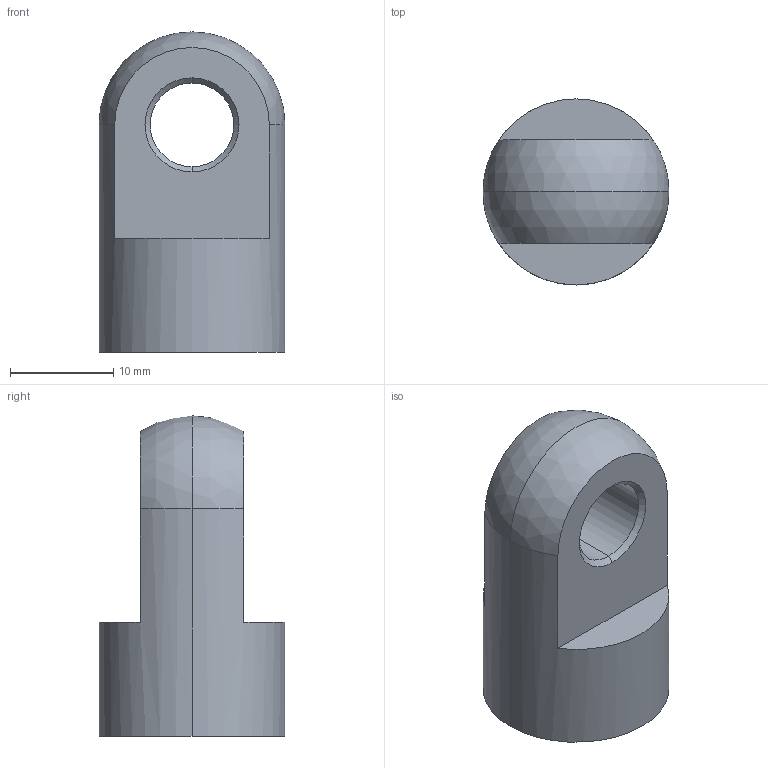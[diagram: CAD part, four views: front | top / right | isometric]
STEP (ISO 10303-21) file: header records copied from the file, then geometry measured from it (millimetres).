
FILE_DESCRIPTION (( 'STEP AP214' ), '1' );
FILE_NAME ('18.08A1L22T.STEP', '2017-10-21T12:11:23', ( '' ), ( '' ), 'SwSTEP 2.0', 'SolidWorks 2016', '' );
FILE_SCHEMA (( 'AUTOMOTIVE_DESIGN' ));
Length unit declared in the file: millimetre
Products named in the file (1): 18.08A1L22T
Bounding box: 18 x 18 x 31 mm (x, y, z)
Volume: 4828.2 mm3; surface area: 2375.5 mm2
Topology: 1 solids, 1 shells, 21 faces, 48 edges, 28 vertices
Faces by surface type: cone 8, cylinder 6, plane 5, sphere 2
Entity records: 620 total; most frequent: DIRECTION 116, CARTESIAN_POINT 96, ORIENTED_EDGE 92, AXIS2_PLACEMENT_3D 48, EDGE_CURVE 46, VERTEX_POINT 28, CIRCLE 26, EDGE_LOOP 24
